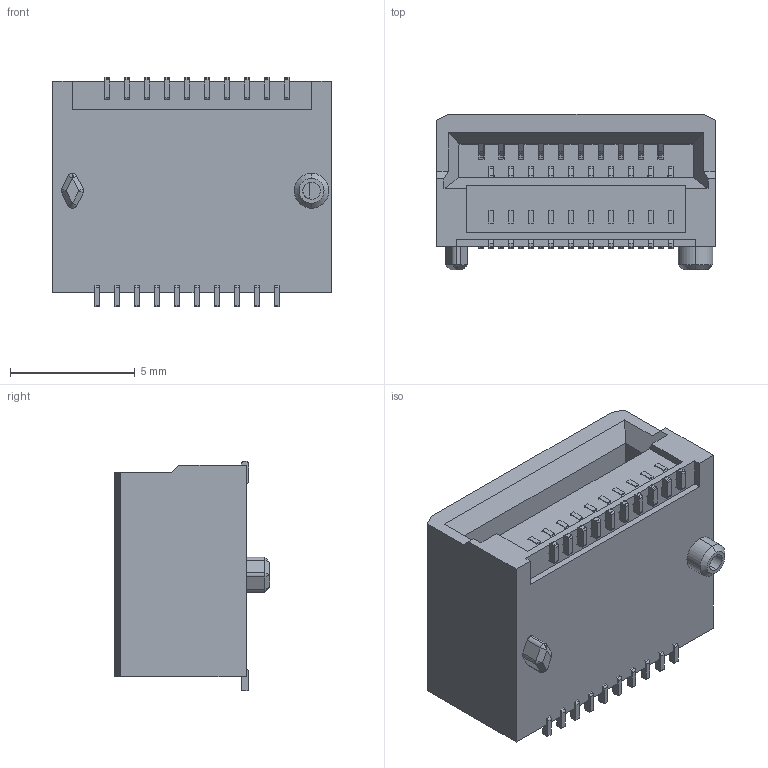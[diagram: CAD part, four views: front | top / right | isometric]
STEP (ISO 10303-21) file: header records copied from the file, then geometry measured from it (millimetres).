
FILE_DESCRIPTION (( 'STEP AP203' ), '1' );
FILE_NAME ('SS00-ZZ-0002.STEP', '2021-02-02T09:01:20', ( '' ), ( '' ), 'SwSTEP 2.0', 'SolidWorks 2012', '' );
FILE_SCHEMA (( 'CONFIG_CONTROL_DESIGN' ));
Length unit declared in the file: millimetre
Products named in the file (1): SS00-ZZ-0002
Bounding box: 11.2 x 6.25 x 9.2 mm (x, y, z)
Volume: 409.5 mm3; surface area: 868 mm2
Topology: 21 solids, 35 shells, 1511 faces, 4194 edges, 2751 vertices
Faces by surface type: plane 980, cylinder 521, cone 7, bspline 3
Entity records: 48123 total; most frequent: CARTESIAN_POINT 8497, ORIENTED_EDGE 8378, DIRECTION 8241, EDGE_CURVE 4189, LINE 3139, VECTOR 3139, VERTEX_POINT 2751, AXIS2_PLACEMENT_3D 2551
